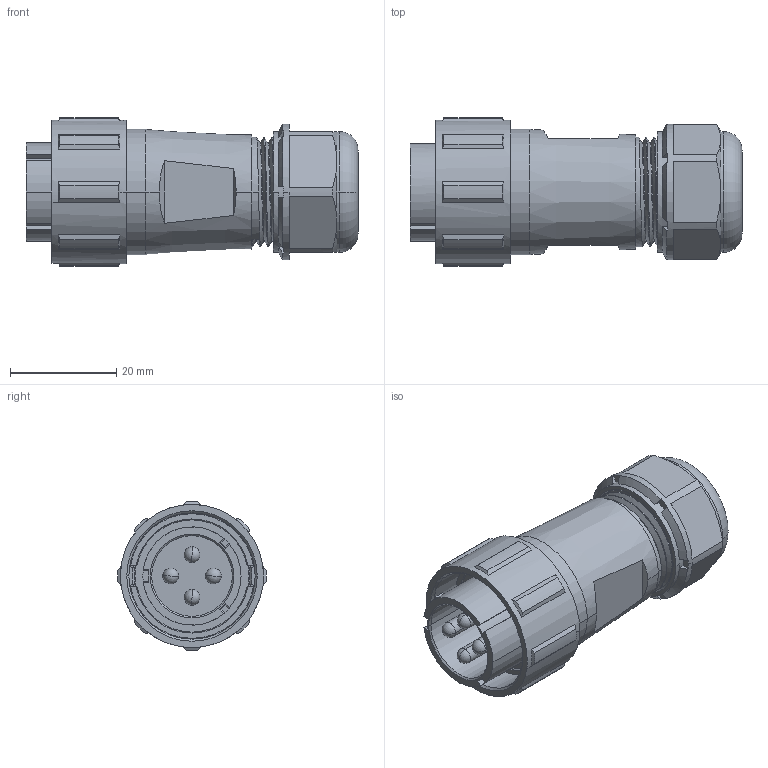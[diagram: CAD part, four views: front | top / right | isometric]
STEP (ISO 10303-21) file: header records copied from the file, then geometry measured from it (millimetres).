
FILE_DESCRIPTION((''),'2;1');
FILE_NAME('SY2110_P4','2015-03-30T',('Administrator'),(''),'PRO/ENGINEER BY PARAMETRIC TECHNOLOGY CORPORATION, 2009440','PRO/ENGINEER BY PARAMETRIC TECHNOLOGY CORPORATION, 2009440','');
FILE_SCHEMA(('CONFIG_CONTROL_DESIGN'));
Length unit declared in the file: millimetre
Products named in the file (1): SY2110_P4
Bounding box: 62.6 x 28 x 27.99 mm (x, y, z)
Volume: 22017.2 mm3; surface area: 9996 mm2
Topology: 1 solids, 2 shells, 342 faces, 949 edges, 630 vertices
Faces by surface type: plane 162, cylinder 101, cone 60, sphere 8, bspline 6, torus 4, extrusion 1
Entity records: 12459 total; most frequent: CARTESIAN_POINT 3769, ORIENTED_EDGE 1882, DIRECTION 1756, EDGE_CURVE 941, AXIS2_PLACEMENT_3D 703, VERTEX_POINT 630, EDGE_LOOP 377, CIRCLE 368
